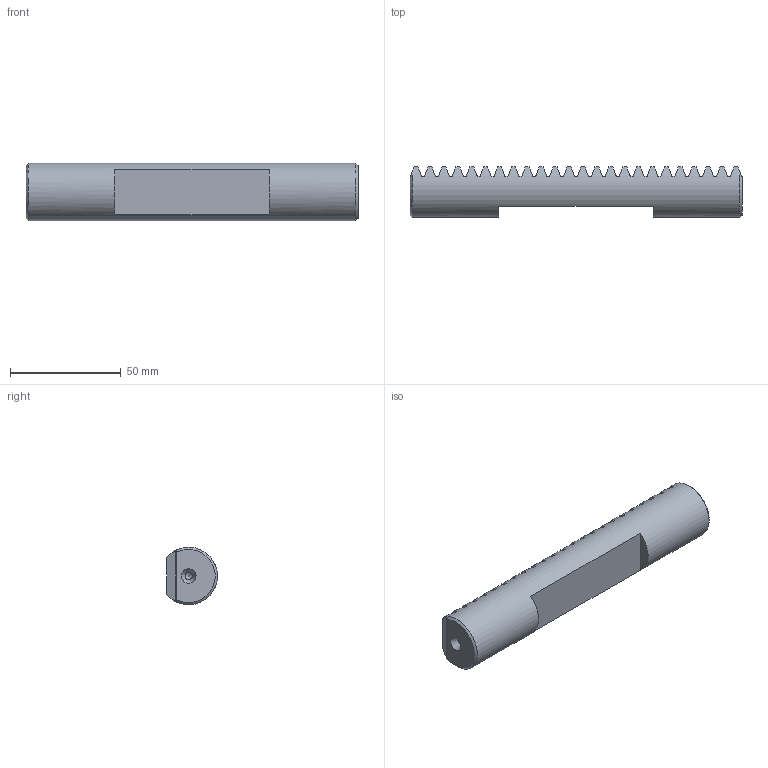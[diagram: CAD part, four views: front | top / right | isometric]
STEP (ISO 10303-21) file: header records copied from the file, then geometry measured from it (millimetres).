
FILE_DESCRIPTION(/* description */ (''),/* implementation_level */ '2;1');
FILE_NAME(/* name */ '',/* time_stamp */ '2024-10-25T13:31:09+09:00',/* author */ ('jhkim'),/* organization */ (''),/* preprocessor_version */ 'ST-DEVELOPER v20',/* originating_system */ 'Autodesk Inventor 2025',/* authorisation */ '');
FILE_SCHEMA (('AUTOMOTIVE_DESIGN { 1 0 10303 214 3 1 1 }'));
Length unit declared in the file: millimetre
Products named in the file (1): 래크
Bounding box: 150 x 23 x 25.96 mm (x, y, z)
Volume: 62826.3 mm3; surface area: 15768.9 mm2
Topology: 1 solids, 1 shells, 157 faces, 458 edges, 304 vertices
Faces by surface type: plane 100, cylinder 51, cone 6
Full cylindrical faces by diameter (mm): 3.242 x2
Entity records: 5897 total; most frequent: CARTESIAN_POINT 1782, ORIENTED_EDGE 912, DIRECTION 788, EDGE_CURVE 456, VERTEX_POINT 304, AXIS2_PLACEMENT_3D 270, LINE 248, VECTOR 248
